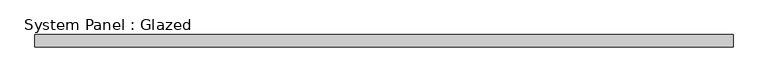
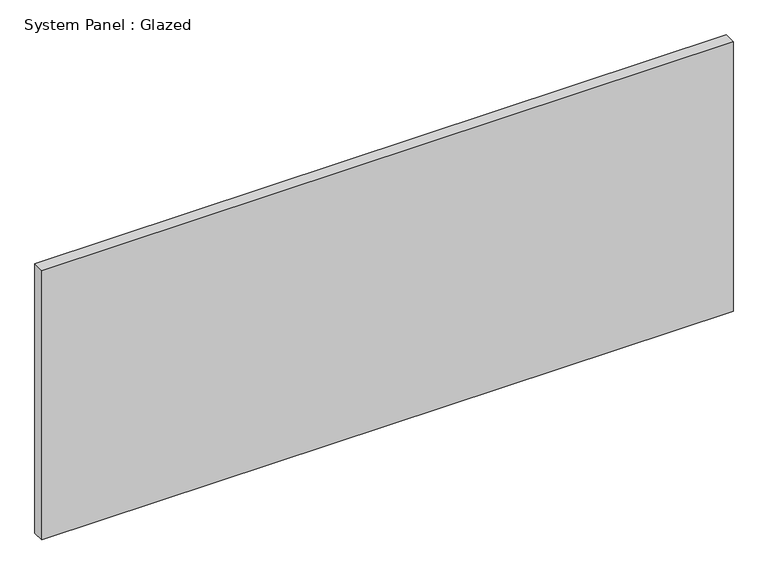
"""IFC4 building model written with IfcOpenShell, lengths in millimetres: plate geometry, System Panel : Glazed."""

from ifc_helpers import new_model, si_unit, origin, origin_with_axes, place, context, project, spatial, polyline, outline, extrude, source, transform, mapped, element, save


def system_panel_glazed_53acddae(model_context):
    return source(origin(), model_context, "Body", "SweptSolid", [
        extrude(outline(polyline([(716.40625, 24.5), (-716.40625, 24.5), (-716.40625, 49.5), (716.40625, 49.5), (716.40625, 24.5)])), origin_with_axes(), (0.0, 0.0, 1.0), 590.0),
    ])


if __name__ == "__main__":
    model = new_model("IFC4")
    model_context = context("Model", 3, world=origin())
    ifc_project = project(units=[si_unit("LENGTHUNIT", "METRE", prefix="MILLI")], contexts=[model_context])
    site = spatial("IfcSite", under=ifc_project)
    building = spatial("IfcBuilding", under=site)
    placement = place(None, origin())
    system_panel_glazed_shape = system_panel_glazed_53acddae(model_context)
    element("IfcPlate", 1, ObjectType="System Panel : Glazed", at=placement, inside=building, context=model_context, shape_type="MappedRepresentation", body=[
        mapped(system_panel_glazed_shape, transform((0.0, 0.0, 0.0), x_axis=(1.0, 0.0, 0.0), y_axis=(0.0, 1.0, 0.0), z_axis=(0.0, 0.0, 1.0))),
    ])
    save(model, "model.ifc")
